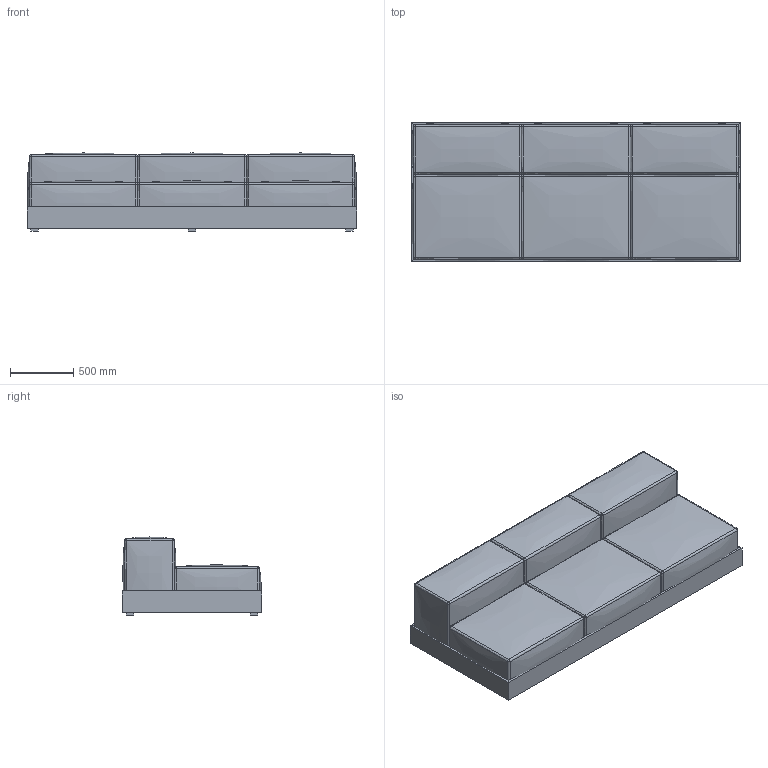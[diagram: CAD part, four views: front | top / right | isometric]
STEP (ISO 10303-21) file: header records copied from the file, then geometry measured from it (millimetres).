
FILE_DESCRIPTION(/* description */ (''),/* implementation_level */ '2;1');
FILE_NAME(/* name */ 'Polp1 260 nob.step',/* time_stamp */ '2024-01-07T10:23:37+01:00',/* author */ (''),/* organization */ (''),/* preprocessor_version */ 'ST-DEVELOPER v20',/* originating_system */ 'Autodesk Translation Framework v12.14.0.127',/* authorisation */ '');
FILE_SCHEMA (('AUTOMOTIVE_DESIGN { 1 0 10303 214 3 1 1 }'));
Length unit declared in the file: millimetre
Products named in the file (7): Polp1 260 nob; Component1; Component2; Component3; Component5; Component6; Component7
Assembly tree (6 placements, depth 2):
  Polp1 260 nob
    Component1
    Component2
    Component3
    Component5
    Component6
    Component7
Bounding box: 2600 x 1100 x 615 mm (x, y, z)
Volume: 1222314110.7 mm3; surface area: 20966487.5 mm2
Topology: 22 solids, 22 shells, 252 faces, 480 edges, 272 vertices
Faces by surface type: plane 113, bspline 76, sphere 48, cylinder 15
Entity records: 14734 total; most frequent: CARTESIAN_POINT 9852, ORIENTED_EDGE 960, DIRECTION 888, EDGE_CURVE 480, AXIS2_PLACEMENT_3D 333, VERTEX_POINT 272, FACE_OUTER_BOUND 252, EDGE_LOOP 252
